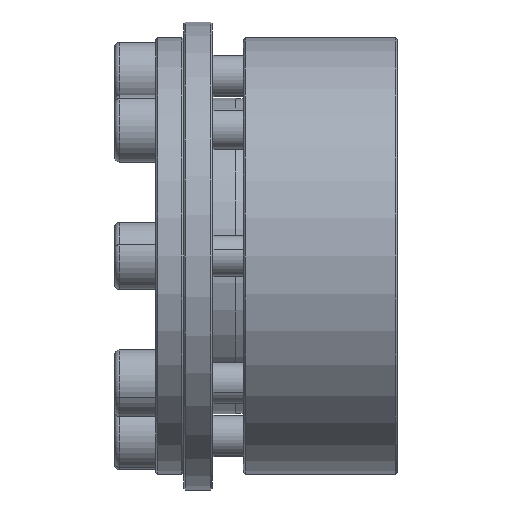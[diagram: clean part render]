
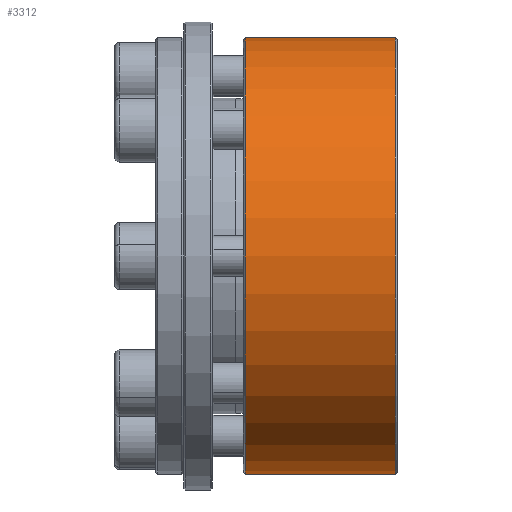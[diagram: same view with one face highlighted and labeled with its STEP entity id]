
A CAD part, front view. The second image highlights one B-rep face of the part: STEP entity #3312.
In plain terms, the highlighted cylindrical face has radius 42.45 mm (diameter 84.9 mm), a partial arc.
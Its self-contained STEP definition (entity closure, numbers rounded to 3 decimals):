
#416 = DIRECTION ( 'NONE',  ( 0., 0., 1. ) ) ;
#489 = VECTOR ( 'NONE', #4398, 1000. ) ;
#502 = LINE ( 'NONE', #9136, #8704 ) ;
#513 = DIRECTION ( 'NONE',  ( 0., 0., 1. ) ) ;
#764 = EDGE_CURVE ( 'NONE', #7492, #6448, #4060, .T. ) ;
#897 = CARTESIAN_POINT ( 'NONE',  ( -88.366, 26.04, 0. ) ) ;
#1087 = VERTEX_POINT ( 'NONE', #2663 ) ;
#1353 = ORIENTED_EDGE ( 'NONE', *, *, #1424, .T. ) ;
#1424 = EDGE_CURVE ( 'NONE', #8774, #7492, #3730, .T. ) ;
#1595 = CARTESIAN_POINT ( 'NONE',  ( -88.766, 26.04, 42.45 ) ) ;
#1720 = EDGE_CURVE ( 'NONE', #1087, #6448, #502, .T. ) ;
#2602 = CARTESIAN_POINT ( 'NONE',  ( -59.166, 26.04, 42.45 ) ) ;
#2663 = CARTESIAN_POINT ( 'NONE',  ( -59.166, 26.04, -42.45 ) ) ;
#3312 = ADVANCED_FACE ( 'NONE', ( #4163 ), #4914, .T. ) ;
#3548 = CARTESIAN_POINT ( 'NONE',  ( -88.366, 26.04, -42.45 ) ) ;
#3730 = LINE ( 'NONE', #1595, #489 ) ;
#4010 = CARTESIAN_POINT ( 'NONE',  ( -88.766, 26.04, 0. ) ) ;
#4060 = CIRCLE ( 'NONE', #7053, 42.45 ) ;
#4163 = FACE_OUTER_BOUND ( 'NONE', #4806, .T. ) ;
#4304 = AXIS2_PLACEMENT_3D ( 'NONE', #5507, #6910, #513 ) ;
#4398 = DIRECTION ( 'NONE',  ( -1., 0., 0. ) ) ;
#4806 = EDGE_LOOP ( 'NONE', ( #8303, #9014, #1353, #6191 ) ) ;
#4914 = CYLINDRICAL_SURFACE ( 'NONE', #5148, 42.45 ) ;
#4938 = DIRECTION ( 'NONE',  ( -1., 0., 0. ) ) ;
#5148 = AXIS2_PLACEMENT_3D ( 'NONE', #4010, #6870, #416 ) ;
#5507 = CARTESIAN_POINT ( 'NONE',  ( -59.166, 26.04, 0. ) ) ;
#6191 = ORIENTED_EDGE ( 'NONE', *, *, #764, .T. ) ;
#6448 = VERTEX_POINT ( 'NONE', #3548 ) ;
#6612 = DIRECTION ( 'NONE',  ( 1., 0., 0. ) ) ;
#6671 = EDGE_CURVE ( 'NONE', #1087, #8774, #8338, .T. ) ;
#6870 = DIRECTION ( 'NONE',  ( -1., 0., 0. ) ) ;
#6910 = DIRECTION ( 'NONE',  ( -1., 0., 0. ) ) ;
#7053 = AXIS2_PLACEMENT_3D ( 'NONE', #897, #6612, #8656 ) ;
#7492 = VERTEX_POINT ( 'NONE', #8435 ) ;
#8303 = ORIENTED_EDGE ( 'NONE', *, *, #1720, .F. ) ;
#8338 = CIRCLE ( 'NONE', #4304, 42.45 ) ;
#8435 = CARTESIAN_POINT ( 'NONE',  ( -88.366, 26.04, 42.45 ) ) ;
#8656 = DIRECTION ( 'NONE',  ( 0., 0., -1. ) ) ;
#8704 = VECTOR ( 'NONE', #4938, 1000. ) ;
#8774 = VERTEX_POINT ( 'NONE', #2602 ) ;
#9014 = ORIENTED_EDGE ( 'NONE', *, *, #6671, .T. ) ;
#9136 = CARTESIAN_POINT ( 'NONE',  ( -88.766, 26.04, -42.45 ) ) ;
